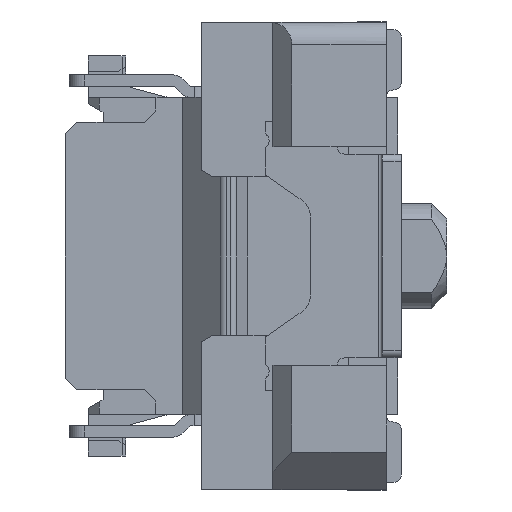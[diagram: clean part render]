
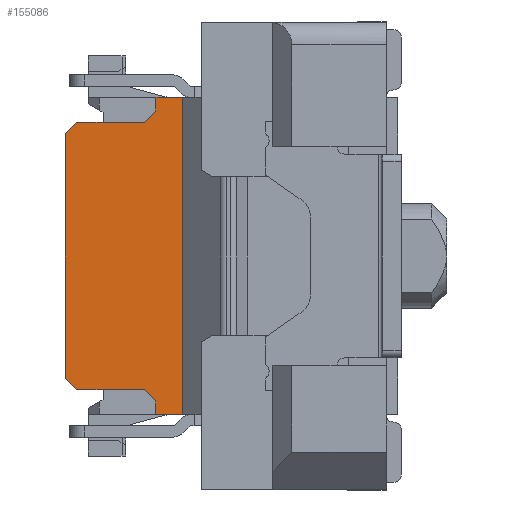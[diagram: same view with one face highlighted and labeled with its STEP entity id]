
A CAD part, left-side view. The second image highlights one B-rep face of the part: STEP entity #155086.
In plain terms, the highlighted planar face has unit normal (-1, 0, 0).
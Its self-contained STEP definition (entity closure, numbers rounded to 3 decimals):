
#6881 = VECTOR ( 'NONE', #51212, 1000. ) ;
#7640 = VECTOR ( 'NONE', #271779, 1000. ) ;
#12569 = LINE ( 'NONE', #293723, #66186 ) ;
#13673 = ORIENTED_EDGE ( 'NONE', *, *, #267263, .T. ) ;
#14061 = LINE ( 'NONE', #255630, #6881 ) ;
#16704 = CARTESIAN_POINT ( 'NONE',  ( -16.6, 2.9, 2.1 ) ) ;
#16904 = EDGE_LOOP ( 'NONE', ( #13673, #228117, #246430, #260692, #118176, #271870, #161639, #115250, #201108, #276153, #179963, #19159 ) ) ;
#19039 = LINE ( 'NONE', #99419, #193921 ) ;
#19159 = ORIENTED_EDGE ( 'NONE', *, *, #106397, .T. ) ;
#22670 = VERTEX_POINT ( 'NONE', #16704 ) ;
#25028 = DIRECTION ( 'NONE',  ( 0., -0.707, -0.707 ) ) ;
#26188 = VECTOR ( 'NONE', #34583, 1000. ) ;
#30709 = EDGE_CURVE ( 'NONE', #190016, #73541, #202225, .T. ) ;
#34583 = DIRECTION ( 'NONE',  ( 0., 0.707, -0.707 ) ) ;
#34609 = VERTEX_POINT ( 'NONE', #132183 ) ;
#41574 = VERTEX_POINT ( 'NONE', #136636 ) ;
#44857 = CARTESIAN_POINT ( 'NONE',  ( -16.6, 3.25, -2.1 ) ) ;
#50618 = CARTESIAN_POINT ( 'NONE',  ( -16.6, 2.65, 1.77 ) ) ;
#50934 = EDGE_CURVE ( 'NONE', #41574, #22670, #12569, .T. ) ;
#51212 = DIRECTION ( 'NONE',  ( 0., 0., -1. ) ) ;
#58570 = CARTESIAN_POINT ( 'NONE',  ( -16.6, 3.25, -1.92 ) ) ;
#58982 = CARTESIAN_POINT ( 'NONE',  ( -16.6, 3.4, -1.77 ) ) ;
#66186 = VECTOR ( 'NONE', #179989, 1000. ) ;
#73541 = VERTEX_POINT ( 'NONE', #194902 ) ;
#73578 = DIRECTION ( 'NONE',  ( 0., 1., 0. ) ) ;
#75448 = VECTOR ( 'NONE', #151970, 1000. ) ;
#80888 = VECTOR ( 'NONE', #230531, 1000. ) ;
#82050 = CARTESIAN_POINT ( 'NONE',  ( -16.6, 2.65, 3.1 ) ) ;
#87490 = VERTEX_POINT ( 'NONE', #171306 ) ;
#96686 = CARTESIAN_POINT ( 'NONE',  ( -16.6, 4.45, 1.62 ) ) ;
#99419 = CARTESIAN_POINT ( 'NONE',  ( -16.6, 0.2, 2.1 ) ) ;
#102840 = LINE ( 'NONE', #231348, #216962 ) ;
#104025 = PLANE ( 'NONE',  #267828 ) ;
#104968 = DIRECTION ( 'NONE',  ( 0., 0., -1. ) ) ;
#106397 = EDGE_CURVE ( 'NONE', #250943, #248542, #196691, .T. ) ;
#112942 = VERTEX_POINT ( 'NONE', #58570 ) ;
#115250 = ORIENTED_EDGE ( 'NONE', *, *, #217389, .T. ) ;
#118176 = ORIENTED_EDGE ( 'NONE', *, *, #171124, .T. ) ;
#125832 = EDGE_CURVE ( 'NONE', #174175, #41574, #278932, .T. ) ;
#129054 = CARTESIAN_POINT ( 'NONE',  ( -16.6, 2.65, -1.77 ) ) ;
#132183 = CARTESIAN_POINT ( 'NONE',  ( -16.6, 3.4, 1.77 ) ) ;
#133042 = EDGE_CURVE ( 'NONE', #73541, #34609, #209784, .T. ) ;
#136636 = CARTESIAN_POINT ( 'NONE',  ( -16.6, 2.9, -2.1 ) ) ;
#147396 = LINE ( 'NONE', #50618, #261628 ) ;
#148247 = CARTESIAN_POINT ( 'NONE',  ( -16.6, 2.81, 3.26 ) ) ;
#149018 = VERTEX_POINT ( 'NONE', #96686 ) ;
#151970 = DIRECTION ( 'NONE',  ( 0., -1., 0. ) ) ;
#153578 = FACE_OUTER_BOUND ( 'NONE', #16904, .T. ) ;
#155086 = ADVANCED_FACE ( 'NONE', ( #153578 ), #104025, .F. ) ;
#160474 = LINE ( 'NONE', #275460, #274708 ) ;
#161639 = ORIENTED_EDGE ( 'NONE', *, *, #133042, .T. ) ;
#164586 = CARTESIAN_POINT ( 'NONE',  ( -16.6, 4.3, -1.77 ) ) ;
#171124 = EDGE_CURVE ( 'NONE', #22670, #190016, #19039, .T. ) ;
#171306 = CARTESIAN_POINT ( 'NONE',  ( -16.6, 4.45, -1.62 ) ) ;
#174020 = VERTEX_POINT ( 'NONE', #289321 ) ;
#174175 = VERTEX_POINT ( 'NONE', #44857 ) ;
#179963 = ORIENTED_EDGE ( 'NONE', *, *, #246449, .T. ) ;
#179989 = DIRECTION ( 'NONE',  ( 0., 0., 1. ) ) ;
#189701 = LINE ( 'NONE', #248839, #7640 ) ;
#190016 = VERTEX_POINT ( 'NONE', #228752 ) ;
#191041 = DIRECTION ( 'NONE',  ( 0., 1., 0. ) ) ;
#193455 = EDGE_CURVE ( 'NONE', #112942, #174175, #14061, .T. ) ;
#193921 = VECTOR ( 'NONE', #191041, 1000. ) ;
#194902 = CARTESIAN_POINT ( 'NONE',  ( -16.6, 3.25, 1.92 ) ) ;
#195345 = CARTESIAN_POINT ( 'NONE',  ( -16.6, 0.2, -2.1 ) ) ;
#196691 = LINE ( 'NONE', #129054, #75448 ) ;
#201108 = ORIENTED_EDGE ( 'NONE', *, *, #245535, .T. ) ;
#202225 = LINE ( 'NONE', #206582, #80888 ) ;
#202650 = VECTOR ( 'NONE', #219577, 1000. ) ;
#206582 = CARTESIAN_POINT ( 'NONE',  ( -16.6, 3.25, 3.1 ) ) ;
#209784 = LINE ( 'NONE', #288424, #202650 ) ;
#216962 = VECTOR ( 'NONE', #254268, 1000. ) ;
#217286 = DIRECTION ( 'NONE',  ( 0., -1., 0. ) ) ;
#217389 = EDGE_CURVE ( 'NONE', #34609, #174020, #147396, .T. ) ;
#219577 = DIRECTION ( 'NONE',  ( 0., 0.707, -0.707 ) ) ;
#228117 = ORIENTED_EDGE ( 'NONE', *, *, #193455, .T. ) ;
#228752 = CARTESIAN_POINT ( 'NONE',  ( -16.6, 3.25, 2.1 ) ) ;
#230531 = DIRECTION ( 'NONE',  ( 0., 0., -1. ) ) ;
#231348 = CARTESIAN_POINT ( 'NONE',  ( -16.6, 4.45, 3.1 ) ) ;
#241650 = DIRECTION ( 'NONE',  ( 1., 0., 0. ) ) ;
#245535 = EDGE_CURVE ( 'NONE', #174020, #149018, #268943, .T. ) ;
#246430 = ORIENTED_EDGE ( 'NONE', *, *, #125832, .T. ) ;
#246449 = EDGE_CURVE ( 'NONE', #87490, #250943, #160474, .T. ) ;
#248542 = VERTEX_POINT ( 'NONE', #58982 ) ;
#248839 = CARTESIAN_POINT ( 'NONE',  ( -16.6, 5.46, 0.29 ) ) ;
#250943 = VERTEX_POINT ( 'NONE', #164586 ) ;
#254268 = DIRECTION ( 'NONE',  ( 0., 0., -1. ) ) ;
#255630 = CARTESIAN_POINT ( 'NONE',  ( -16.6, 3.25, 3.1 ) ) ;
#257472 = VECTOR ( 'NONE', #217286, 1000. ) ;
#260692 = ORIENTED_EDGE ( 'NONE', *, *, #50934, .T. ) ;
#261068 = EDGE_CURVE ( 'NONE', #149018, #87490, #102840, .T. ) ;
#261628 = VECTOR ( 'NONE', #73578, 1000. ) ;
#267263 = EDGE_CURVE ( 'NONE', #248542, #112942, #189701, .T. ) ;
#267828 = AXIS2_PLACEMENT_3D ( 'NONE', #82050, #241650, #104968 ) ;
#268943 = LINE ( 'NONE', #148247, #26188 ) ;
#271779 = DIRECTION ( 'NONE',  ( 0., -0.707, -0.707 ) ) ;
#271870 = ORIENTED_EDGE ( 'NONE', *, *, #30709, .T. ) ;
#274708 = VECTOR ( 'NONE', #25028, 1000. ) ;
#275460 = CARTESIAN_POINT ( 'NONE',  ( -16.6, 5.91, -0.16 ) ) ;
#276153 = ORIENTED_EDGE ( 'NONE', *, *, #261068, .T. ) ;
#278932 = LINE ( 'NONE', #195345, #257472 ) ;
#288424 = CARTESIAN_POINT ( 'NONE',  ( -16.6, 2.36, 2.81 ) ) ;
#289321 = CARTESIAN_POINT ( 'NONE',  ( -16.6, 4.3, 1.77 ) ) ;
#293723 = CARTESIAN_POINT ( 'NONE',  ( -16.6, 2.9, -2.454 ) ) ;
